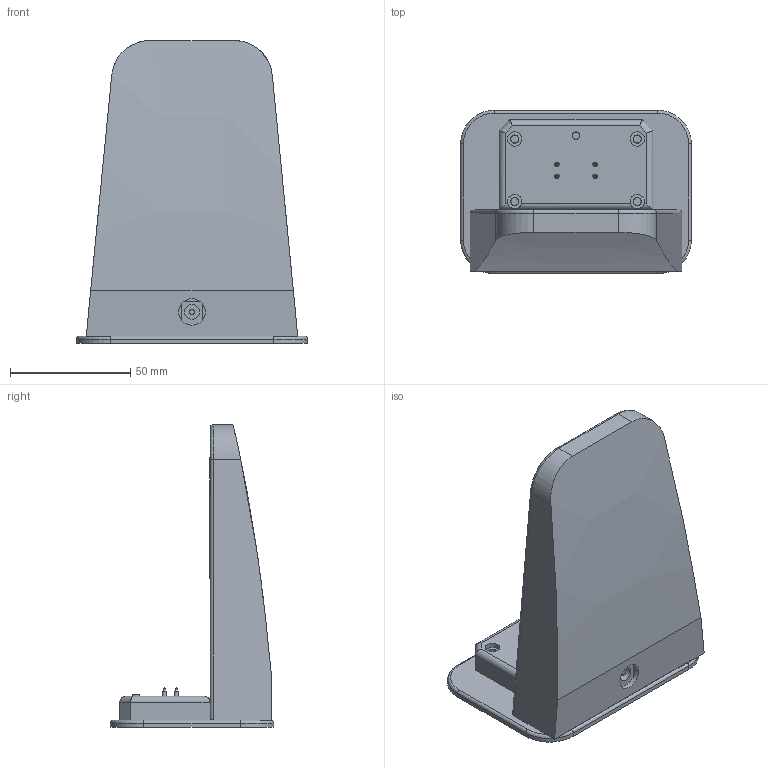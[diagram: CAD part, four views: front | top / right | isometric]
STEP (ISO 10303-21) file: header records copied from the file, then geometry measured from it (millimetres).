
FILE_DESCRIPTION(('Open CASCADE Model'),'2;1');
FILE_NAME('Open CASCADE Shape Model','2026-10-29T02:50:04',('Author'),( 'Open CASCADE'),'Open CASCADE STEP processor 7.9','Open CASCADE 7.9' ,'Unknown');
FILE_SCHEMA(('AUTOMOTIVE_DESIGN { 1 0 10303 214 1 1 1 1 }'));
Length unit declared in the file: millimetre
Products named in the file (41): NOVA_dock_RevB; dock_pcb_0; dock_pcb_1; dock_pcb_2; dock_pcb_3; dock_pcb_4; dock_pcb_5; dock_pcb_6; dock_pcb_7; dock_pcb_8; dock_pcb_9; dock_pcb_10; dock_pcb_11; dock_pcb_12; dock_pcb_13; dock_pcb_14; dock_pcb_15; dock_pcb_16; dock_pcb_17; dock_pcb_18; dock_pcb_19; dock_pcb_20; dock_pcb_21; dock_pcb_22; dock_pcb_23; dock_pcb_24; dock_pcb_25; dock_pcb_26; dock_pcb_27; dock_pcb_28; dock_pcb_29; dock_pcb_30; dock_pcb_31; dock_pcb_32; dock_base; dock_tower; dock_tongue; dock_lightpipe; dock_tag_panel; dock_tag_white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
Assembly tree (40 placements, depth 2):
  NOVA_dock_RevB
    dock_pcb_0
    dock_pcb_1
    dock_pcb_2
    dock_pcb_3
    dock_pcb_4
    dock_pcb_5
    dock_pcb_6
    dock_pcb_7
    dock_pcb_8
    dock_pcb_9
    dock_pcb_10
    dock_pcb_11
    dock_pcb_12
    dock_pcb_13
    dock_pcb_14
    dock_pcb_15
    dock_pcb_16
    dock_pcb_17
    dock_pcb_18
    dock_pcb_19
    dock_pcb_20
    dock_pcb_21
    dock_pcb_22
    dock_pcb_23
    dock_pcb_24
    dock_pcb_25
    dock_pcb_26
    dock_pcb_27
    dock_pcb_28
    dock_pcb_29
    dock_pcb_30
    dock_pcb_31
    dock_pcb_32
    dock_base
    dock_tower
    dock_tongue
    dock_lightpipe
    dock_tag_panel
    dock_tag_white
    dock_tag_black
Bounding box: 96 x 68 x 126 mm (x, y, z)
Volume: 214125.1 mm3; surface area: 68034.6 mm2
Topology: 46 solids, 46 shells, 773 faces, 1843 edges, 1186 vertices
Faces by surface type: plane 500, cylinder 181, bspline 63, extrusion 17, torus 6, sphere 4, cone 2
Full cylindrical faces by diameter (mm): 0.5 x12, 0.9 x4, 1.5 x4, 1.9 x4, 2 x5, 3 x1, 3.2 x5, 3.4 x6, 4 x6, 5 x1, 6 x8, 6.2 x1, 6.5 x4, 10.2 x4, 11 x1
Entity records: 48325 total; most frequent: CARTESIAN_POINT 10565, DIRECTION 6681, VECTOR 4306, LINE 4289, ORIENTED_EDGE 3664, PCURVE 3662, DEFINITIONAL_REPRESENTATION 3662, EDGE_CURVE 1831
